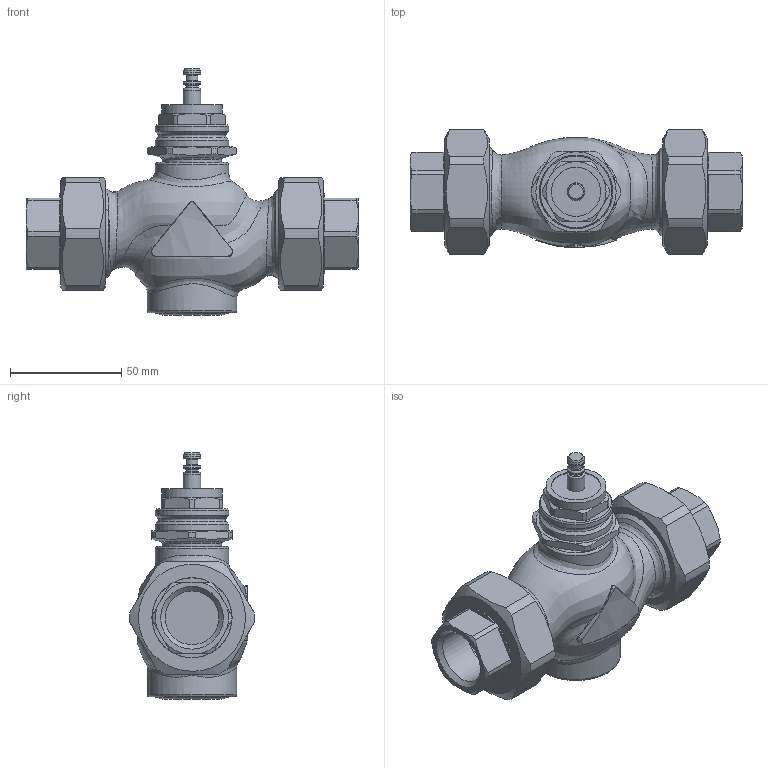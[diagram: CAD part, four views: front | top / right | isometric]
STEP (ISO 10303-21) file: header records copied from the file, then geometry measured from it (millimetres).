
FILE_DESCRIPTION(/* description */ (''),/* implementation_level */ '2;1');
FILE_NAME(/* name */ 'rv111s_dn20_2_T.stp',/* time_stamp */ '2012-02-28T10:01:56+01:00',/* author */ ('KLIMES'),/* organization */ ('LDM'),/* preprocessor_version */ 'ST-DEVELOPER v11',/* originating_system */ 'SIEMENS PLM Software NX 7.0',/* authorisation */ '');
FILE_SCHEMA (('CONFIG_CONTROL_DESIGN'));
Length unit declared in the file: millimetre
Products named in the file (1): klimEAFB3cxj
Bounding box: 149 x 55.98 x 110.5 mm (x, y, z)
Volume: 256515.7 mm3; surface area: 53189.3 mm2
Topology: 7 solids, 7 shells, 218 faces, 517 edges, 331 vertices
Faces by surface type: plane 83, cylinder 59, cone 44, bspline 20, torus 12
Full cylindrical faces by diameter (mm): 5.3 x1, 5.5 x1, 8 x3, 22 x1, 24.117 x2, 26.5 x1, 27 x1, 27.5 x2, 28 x2, 32.5 x1, 33 x3, 35.8 x2, 36 x2, 38 x2, 38.8 x2, 38.952 x2, 40 x1, 41.91 x2
Entity records: 11540 total; most frequent: CARTESIAN_POINT 7014, DIRECTION 888, ORIENTED_EDGE 844, EDGE_CURVE 422, AXIS2_PLACEMENT_3D 390, EDGE_LOOP 314, VERTEX_POINT 302, ADVANCED_FACE 218
